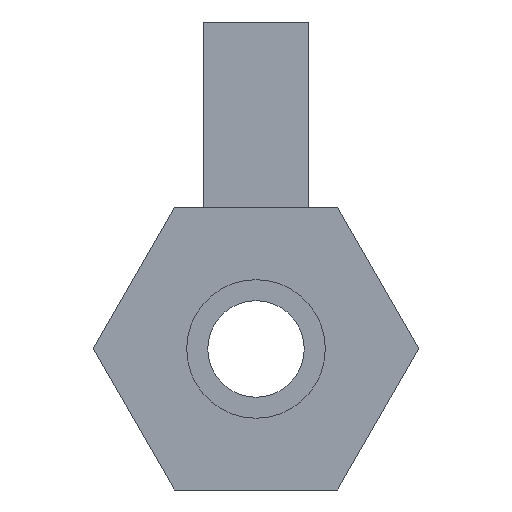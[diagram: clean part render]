
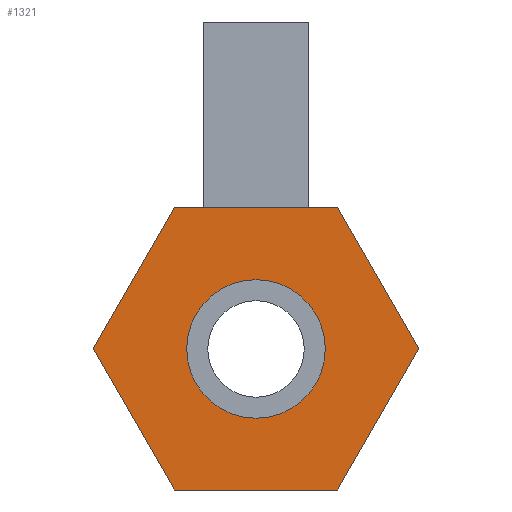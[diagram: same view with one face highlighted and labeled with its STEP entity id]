
A CAD part, left-side view. The second image highlights one B-rep face of the part: STEP entity #1321.
In plain terms, the highlighted planar face has unit normal (-1, 0, 0).
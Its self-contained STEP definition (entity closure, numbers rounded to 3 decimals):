
#346 = PLANE('',#347);
#347 = AXIS2_PLACEMENT_3D('',#348,#349,#350);
#348 = CARTESIAN_POINT('',(0.,0.,0.453));
#349 = DIRECTION('',(0.,0.,1.));
#350 = DIRECTION('',(0.,1.,0.));
#735 = CYLINDRICAL_SURFACE('',#736,0.223);
#736 = AXIS2_PLACEMENT_3D('',#737,#738,#739);
#737 = CARTESIAN_POINT('',(-1.7,0.,0.)
  );
#738 = DIRECTION('',(1.,0.,0.));
#739 = DIRECTION('',(0.,-1.,0.));
#760 = VERTEX_POINT('',#761);
#761 = CARTESIAN_POINT('',(-1.7,-0.223,0.));
#781 = EDGE_CURVE('',#760,#760,#782,.T.);
#782 = SURFACE_CURVE('',#783,(#788,#795),.PCURVE_S1.);
#783 = CIRCLE('',#784,0.223);
#784 = AXIS2_PLACEMENT_3D('',#785,#786,#787);
#785 = CARTESIAN_POINT('',(-1.7,0.,0.)
  );
#786 = DIRECTION('',(1.,0.,0.));
#787 = DIRECTION('',(0.,-1.,0.));
#788 = PCURVE('',#735,#789);
#789 = DEFINITIONAL_REPRESENTATION('',(#790),#794);
#790 = LINE('',#791,#792);
#791 = CARTESIAN_POINT('',(0.,0.));
#792 = VECTOR('',#793,1.);
#793 = DIRECTION('',(1.,0.));
#794 = ( GEOMETRIC_REPRESENTATION_CONTEXT(2) 
PARAMETRIC_REPRESENTATION_CONTEXT() REPRESENTATION_CONTEXT('2D SPACE',''
  ) );
#795 = PCURVE('',#796,#801);
#796 = PLANE('',#797);
#797 = AXIS2_PLACEMENT_3D('',#798,#799,#800);
#798 = CARTESIAN_POINT('',(-1.7,0.,0.)
  );
#799 = DIRECTION('',(1.,0.,0.));
#800 = DIRECTION('',(0.,0.,-1.));
#801 = DEFINITIONAL_REPRESENTATION('',(#802),#806);
#802 = CIRCLE('',#803,0.223);
#803 = AXIS2_PLACEMENT_2D('',#804,#805);
#804 = CARTESIAN_POINT('',(0.,0.));
#805 = DIRECTION('',(0.,-1.));
#806 = ( GEOMETRIC_REPRESENTATION_CONTEXT(2) 
PARAMETRIC_REPRESENTATION_CONTEXT() REPRESENTATION_CONTEXT('2D SPACE',''
  ) );
#868 = EDGE_CURVE('',#869,#871,#873,.T.);
#869 = VERTEX_POINT('',#870);
#870 = CARTESIAN_POINT('',(-1.7,-0.262,-0.453));
#871 = VERTEX_POINT('',#872);
#872 = CARTESIAN_POINT('',(-1.7,0.262,-0.453));
#873 = SURFACE_CURVE('',#874,(#878,#890),.PCURVE_S1.);
#874 = LINE('',#875,#876);
#875 = CARTESIAN_POINT('',(-1.7,0.262,-0.453));
#876 = VECTOR('',#877,1.);
#877 = DIRECTION('',(0.,1.,0.));
#878 = PCURVE('',#879,#884);
#879 = PLANE('',#880);
#880 = AXIS2_PLACEMENT_3D('',#881,#882,#883);
#881 = CARTESIAN_POINT('',(0.,0.,-0.453));
#882 = DIRECTION('',(0.,0.,-1.));
#883 = DIRECTION('',(0.,-1.,0.));
#884 = DEFINITIONAL_REPRESENTATION('',(#885),#889);
#885 = LINE('',#886,#887);
#886 = CARTESIAN_POINT('',(-0.262,1.7));
#887 = VECTOR('',#888,1.);
#888 = DIRECTION('',(-1.,-0.));
#889 = ( GEOMETRIC_REPRESENTATION_CONTEXT(2) 
PARAMETRIC_REPRESENTATION_CONTEXT() REPRESENTATION_CONTEXT('2D SPACE',''
  ) );
#890 = PCURVE('',#796,#891);
#891 = DEFINITIONAL_REPRESENTATION('',(#892),#896);
#892 = LINE('',#893,#894);
#893 = CARTESIAN_POINT('',(0.453,0.262));
#894 = VECTOR('',#895,1.);
#895 = DIRECTION('',(0.,1.));
#896 = ( GEOMETRIC_REPRESENTATION_CONTEXT(2) 
PARAMETRIC_REPRESENTATION_CONTEXT() REPRESENTATION_CONTEXT('2D SPACE',''
  ) );
#914 = PLANE('',#915);
#915 = AXIS2_PLACEMENT_3D('',#916,#917,#918);
#916 = CARTESIAN_POINT('',(0.,0.392,-0.227));
#917 = DIRECTION('',(0.,0.866,-0.5));
#918 = DIRECTION('',(0.,-0.5,-0.866));
#963 = PLANE('',#964);
#964 = AXIS2_PLACEMENT_3D('',#965,#966,#967);
#965 = CARTESIAN_POINT('',(0.,-0.392,-0.227));
#966 = DIRECTION('',(0.,-0.866,-0.5));
#967 = DIRECTION('',(0.,-0.5,0.866));
#978 = EDGE_CURVE('',#871,#979,#981,.T.);
#979 = VERTEX_POINT('',#980);
#980 = CARTESIAN_POINT('',(-1.7,0.523,0.));
#981 = SURFACE_CURVE('',#982,(#986,#993),.PCURVE_S1.);
#982 = LINE('',#983,#984);
#983 = CARTESIAN_POINT('',(-1.7,0.523,0.));
#984 = VECTOR('',#985,1.);
#985 = DIRECTION('',(0.,0.5,0.866));
#986 = PCURVE('',#914,#987);
#987 = DEFINITIONAL_REPRESENTATION('',(#988),#992);
#988 = LINE('',#989,#990);
#989 = CARTESIAN_POINT('',(-0.262,1.7));
#990 = VECTOR('',#991,1.);
#991 = DIRECTION('',(-1.,0.));
#992 = ( GEOMETRIC_REPRESENTATION_CONTEXT(2) 
PARAMETRIC_REPRESENTATION_CONTEXT() REPRESENTATION_CONTEXT('2D SPACE',''
  ) );
#993 = PCURVE('',#796,#994);
#994 = DEFINITIONAL_REPRESENTATION('',(#995),#999);
#995 = LINE('',#996,#997);
#996 = CARTESIAN_POINT('',(0.,0.523));
#997 = VECTOR('',#998,1.);
#998 = DIRECTION('',(-0.866,0.5));
#999 = ( GEOMETRIC_REPRESENTATION_CONTEXT(2) 
PARAMETRIC_REPRESENTATION_CONTEXT() REPRESENTATION_CONTEXT('2D SPACE',''
  ) );
#1017 = PLANE('',#1018);
#1018 = AXIS2_PLACEMENT_3D('',#1019,#1020,#1021);
#1019 = CARTESIAN_POINT('',(0.,0.392,0.227));
#1020 = DIRECTION('',(0.,0.866,0.5));
#1021 = DIRECTION('',(0.,0.5,-0.866));
#1054 = EDGE_CURVE('',#979,#1055,#1057,.T.);
#1055 = VERTEX_POINT('',#1056);
#1056 = CARTESIAN_POINT('',(-1.7,0.262,0.453));
#1057 = SURFACE_CURVE('',#1058,(#1062,#1069),.PCURVE_S1.);
#1058 = LINE('',#1059,#1060);
#1059 = CARTESIAN_POINT('',(-1.7,0.262,0.453));
#1060 = VECTOR('',#1061,1.);
#1061 = DIRECTION('',(0.,-0.5,0.866));
#1062 = PCURVE('',#1017,#1063);
#1063 = DEFINITIONAL_REPRESENTATION('',(#1064),#1068);
#1064 = LINE('',#1065,#1066);
#1065 = CARTESIAN_POINT('',(-0.262,1.7));
#1066 = VECTOR('',#1067,1.);
#1067 = DIRECTION('',(-1.,0.));
#1068 = ( GEOMETRIC_REPRESENTATION_CONTEXT(2) 
PARAMETRIC_REPRESENTATION_CONTEXT() REPRESENTATION_CONTEXT('2D SPACE',''
  ) );
#1069 = PCURVE('',#796,#1070);
#1070 = DEFINITIONAL_REPRESENTATION('',(#1071),#1075);
#1071 = LINE('',#1072,#1073);
#1072 = CARTESIAN_POINT('',(-0.453,0.262));
#1073 = VECTOR('',#1074,1.);
#1074 = DIRECTION('',(-0.866,-0.5));
#1075 = ( GEOMETRIC_REPRESENTATION_CONTEXT(2) 
PARAMETRIC_REPRESENTATION_CONTEXT() REPRESENTATION_CONTEXT('2D SPACE',''
  ) );
#1131 = EDGE_CURVE('',#1055,#1132,#1134,.T.);
#1132 = VERTEX_POINT('',#1133);
#1133 = CARTESIAN_POINT('',(-1.7,-0.262,0.453));
#1134 = SURFACE_CURVE('',#1135,(#1139,#1146),.PCURVE_S1.);
#1135 = LINE('',#1136,#1137);
#1136 = CARTESIAN_POINT('',(-1.7,-0.262,0.453));
#1137 = VECTOR('',#1138,1.);
#1138 = DIRECTION('',(0.,-1.,0.));
#1139 = PCURVE('',#346,#1140);
#1140 = DEFINITIONAL_REPRESENTATION('',(#1141),#1145);
#1141 = LINE('',#1142,#1143);
#1142 = CARTESIAN_POINT('',(-0.262,1.7));
#1143 = VECTOR('',#1144,1.);
#1144 = DIRECTION('',(-1.,0.));
#1145 = ( GEOMETRIC_REPRESENTATION_CONTEXT(2) 
PARAMETRIC_REPRESENTATION_CONTEXT() REPRESENTATION_CONTEXT('2D SPACE',''
  ) );
#1146 = PCURVE('',#796,#1147);
#1147 = DEFINITIONAL_REPRESENTATION('',(#1148),#1152);
#1148 = LINE('',#1149,#1150);
#1149 = CARTESIAN_POINT('',(-0.453,-0.262));
#1150 = VECTOR('',#1151,1.);
#1151 = DIRECTION('',(0.,-1.));
#1152 = ( GEOMETRIC_REPRESENTATION_CONTEXT(2) 
PARAMETRIC_REPRESENTATION_CONTEXT() REPRESENTATION_CONTEXT('2D SPACE',''
  ) );
#1170 = PLANE('',#1171);
#1171 = AXIS2_PLACEMENT_3D('',#1172,#1173,#1174);
#1172 = CARTESIAN_POINT('',(0.,-0.392,0.227));
#1173 = DIRECTION('',(0.,-0.866,0.5));
#1174 = DIRECTION('',(0.,0.5,0.866));
#1207 = EDGE_CURVE('',#1132,#1208,#1210,.T.);
#1208 = VERTEX_POINT('',#1209);
#1209 = CARTESIAN_POINT('',(-1.7,-0.523,0.));
#1210 = SURFACE_CURVE('',#1211,(#1215,#1222),.PCURVE_S1.);
#1211 = LINE('',#1212,#1213);
#1212 = CARTESIAN_POINT('',(-1.7,-0.523,0.));
#1213 = VECTOR('',#1214,1.);
#1214 = DIRECTION('',(0.,-0.5,-0.866));
#1215 = PCURVE('',#1170,#1216);
#1216 = DEFINITIONAL_REPRESENTATION('',(#1217),#1221);
#1217 = LINE('',#1218,#1219);
#1218 = CARTESIAN_POINT('',(-0.262,1.7));
#1219 = VECTOR('',#1220,1.);
#1220 = DIRECTION('',(-1.,-0.));
#1221 = ( GEOMETRIC_REPRESENTATION_CONTEXT(2) 
PARAMETRIC_REPRESENTATION_CONTEXT() REPRESENTATION_CONTEXT('2D SPACE',''
  ) );
#1222 = PCURVE('',#796,#1223);
#1223 = DEFINITIONAL_REPRESENTATION('',(#1224),#1228);
#1224 = LINE('',#1225,#1226);
#1225 = CARTESIAN_POINT('',(0.,-0.523));
#1226 = VECTOR('',#1227,1.);
#1227 = DIRECTION('',(0.866,-0.5));
#1228 = ( GEOMETRIC_REPRESENTATION_CONTEXT(2) 
PARAMETRIC_REPRESENTATION_CONTEXT() REPRESENTATION_CONTEXT('2D SPACE',''
  ) );
#1278 = EDGE_CURVE('',#1208,#869,#1279,.T.);
#1279 = SURFACE_CURVE('',#1280,(#1284,#1291),.PCURVE_S1.);
#1280 = LINE('',#1281,#1282);
#1281 = CARTESIAN_POINT('',(-1.7,-0.262,-0.453));
#1282 = VECTOR('',#1283,1.);
#1283 = DIRECTION('',(0.,0.5,-0.866));
#1284 = PCURVE('',#963,#1285);
#1285 = DEFINITIONAL_REPRESENTATION('',(#1286),#1290);
#1286 = LINE('',#1287,#1288);
#1287 = CARTESIAN_POINT('',(-0.262,1.7));
#1288 = VECTOR('',#1289,1.);
#1289 = DIRECTION('',(-1.,-0.));
#1290 = ( GEOMETRIC_REPRESENTATION_CONTEXT(2) 
PARAMETRIC_REPRESENTATION_CONTEXT() REPRESENTATION_CONTEXT('2D SPACE',''
  ) );
#1291 = PCURVE('',#796,#1292);
#1292 = DEFINITIONAL_REPRESENTATION('',(#1293),#1297);
#1293 = LINE('',#1294,#1295);
#1294 = CARTESIAN_POINT('',(0.453,-0.262));
#1295 = VECTOR('',#1296,1.);
#1296 = DIRECTION('',(0.866,0.5));
#1297 = ( GEOMETRIC_REPRESENTATION_CONTEXT(2) 
PARAMETRIC_REPRESENTATION_CONTEXT() REPRESENTATION_CONTEXT('2D SPACE',''
  ) );
#1321 = ADVANCED_FACE('',(#1322,#1325),#796,.F.);
#1322 = FACE_BOUND('',#1323,.T.);
#1323 = EDGE_LOOP('',(#1324));
#1324 = ORIENTED_EDGE('',*,*,#781,.T.);
#1325 = FACE_BOUND('',#1326,.T.);
#1326 = EDGE_LOOP('',(#1327,#1328,#1329,#1330,#1331,#1332));
#1327 = ORIENTED_EDGE('',*,*,#868,.F.);
#1328 = ORIENTED_EDGE('',*,*,#1278,.F.);
#1329 = ORIENTED_EDGE('',*,*,#1207,.F.);
#1330 = ORIENTED_EDGE('',*,*,#1131,.F.);
#1331 = ORIENTED_EDGE('',*,*,#1054,.F.);
#1332 = ORIENTED_EDGE('',*,*,#978,.F.);
